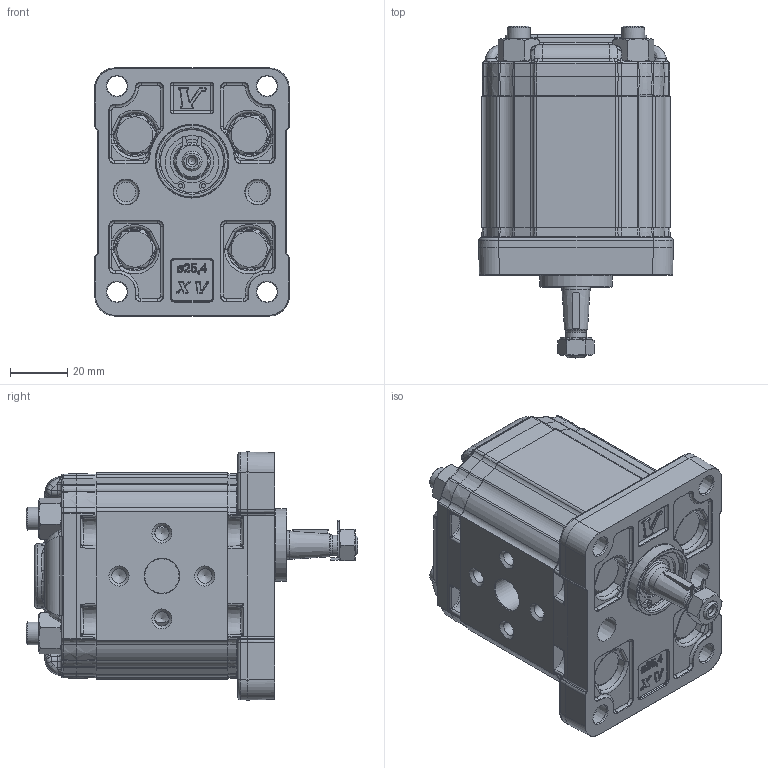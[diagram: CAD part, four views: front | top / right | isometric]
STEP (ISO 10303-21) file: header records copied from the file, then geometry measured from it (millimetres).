
FILE_DESCRIPTION(/* description */ ('Unknown'),/* implementation_level */ '2;1');
FILE_NAME(/* name */ 'X1P2002FIIA',/* time_stamp */ '2026-05-26T18:17:38+02:00',/* author */ ('Unknown'),/* organization */ ('Unknown'),/* preprocessor_version */ 'ST-DEVELOPER v16.7',/* originating_system */ 'Solid Edge',/* authorisation */ 'Unknown');
FILE_SCHEMA (('AP242_MANAGED_MODEL_BASED_3D_ENGINEERING_MIM_LF { 1 0 10303 442 1 1 4 }','AUTOMOTIVE_DESIGN {1 0 10303 214 3 1 1}'));
Products named in the file (5): X1P2002FIIA; X1P02; 1F; X1IIH46; XP101-A
Assembly tree (4 placements, depth 2):
  X1P2002FIIA
    X1P02
    1F
    X1IIH46
    XP101-A
Bounding box: 68 x 115.99 x 86.7 mm (x, y, z)
Volume: 334979.1 mm3; surface area: 72464.6 mm2
Topology: 6 solids, 7 shells, 2849 faces, 6763 edges, 4005 vertices
Faces by surface type: cylinder 904, bspline 682, plane 620, torus 311, cone 279, sphere 53
Full cylindrical faces by diameter (mm): 1.447 x2, 2.5 x1, 3.65 x2, 5 x8, 7 x2, 7.15 x4, 7.25 x1, 8 x12, 8.5 x6, 9 x2, 9.92 x1, 10.5 x2, 11.965 x1, 12 x8, 12.923 x1, 15.115 x1, 15.181 x1, 19 x1, 20 x1, 22 x2, 22.2 x1, 23 x1, 25.4 x1
Entity records: 139217 total; most frequent: CARTESIAN_POINT 58016, ORIENTED_EDGE 12872, DIRECTION 12397, EDGE_CURVE 6436, AXIS2_PLACEMENT_3D 5148, VERTEX_POINT 3905, FACE_BOUND 3191, EDGE_LOOP 3181
